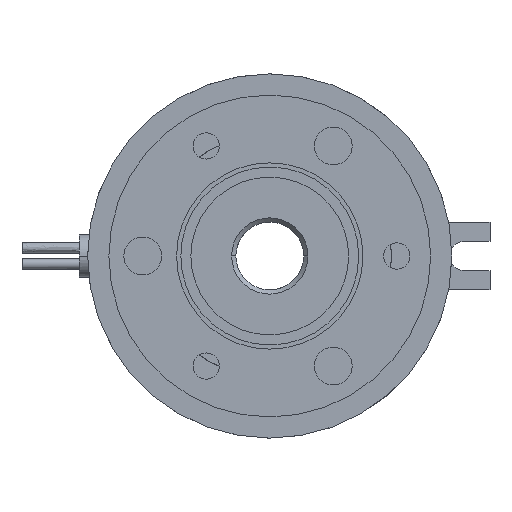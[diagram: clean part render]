
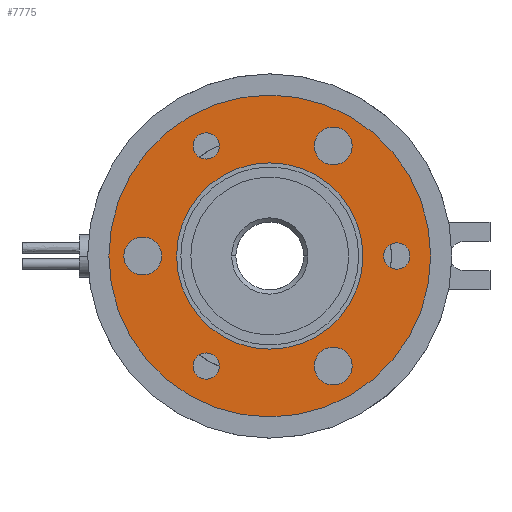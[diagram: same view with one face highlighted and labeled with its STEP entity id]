
A CAD part, left-side view. The second image highlights one B-rep face of the part: STEP entity #7775.
In plain terms, the highlighted planar face has unit normal (-1, 0, 0) as drawn and (0, 0, -1) by its records, which use the part's own axes.
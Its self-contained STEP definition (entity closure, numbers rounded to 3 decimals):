
#7177=CARTESIAN_POINT('',(-19.0,0.,0.0));
#7178=VERTEX_POINT('',#7177);
#7187=CARTESIAN_POINT('',(19.0,0.,0.0));
#7188=VERTEX_POINT('',#7187);
#7189=CARTESIAN_POINT('',(0.0,0.0,0.0));
#7190=DIRECTION('',(0.0,0.0,-1.0));
#7191=DIRECTION('',(-1.0,0.0,0.0));
#7192=AXIS2_PLACEMENT_3D('',#7189,#7190,#7191);
#7193=CIRCLE('',#7192,19.0);
#7194=EDGE_CURVE('',#7188,#7178,#7193,.T.);
#7221=CARTESIAN_POINT('',(-11.0,0.,0.0));
#7222=VERTEX_POINT('',#7221);
#7238=CARTESIAN_POINT('',(11.0,0.,0.0));
#7239=VERTEX_POINT('',#7238);
#7246=CARTESIAN_POINT('',(0.0,0.0,0.0));
#7247=DIRECTION('',(0.0,0.0,1.0));
#7248=DIRECTION('',(-1.0,0.0,0.0));
#7249=AXIS2_PLACEMENT_3D('',#7246,#7247,#7248);
#7250=CIRCLE('',#7249,11.0);
#7251=EDGE_CURVE('',#7222,#7239,#7250,.T.);
#7261=CARTESIAN_POINT('',(-1.55,15.0,0.0));
#7262=VERTEX_POINT('',#7261);
#7271=CARTESIAN_POINT('',(1.55,15.0,0.0));
#7272=VERTEX_POINT('',#7271);
#7273=CARTESIAN_POINT('',(0.0,15.0,0.0));
#7274=DIRECTION('',(0.0,0.0,1.0));
#7275=DIRECTION('',(-1.0,0.0,0.0));
#7276=AXIS2_PLACEMENT_3D('',#7273,#7274,#7275);
#7277=CIRCLE('',#7276,1.55);
#7278=EDGE_CURVE('',#7272,#7262,#7277,.T.);
#7303=CARTESIAN_POINT('',(12.215,8.842,0.0));
#7304=VERTEX_POINT('',#7303);
#7313=CARTESIAN_POINT('',(13.765,6.158,0.0));
#7314=VERTEX_POINT('',#7313);
#7315=CARTESIAN_POINT('',(12.99,7.5,0.0));
#7316=DIRECTION('',(0.0,0.0,1.0));
#7317=DIRECTION('',(-0.5,0.866,0.0));
#7318=AXIS2_PLACEMENT_3D('',#7315,#7316,#7317);
#7319=CIRCLE('',#7318,1.55);
#7320=EDGE_CURVE('',#7314,#7304,#7319,.T.);
#7345=CARTESIAN_POINT('',(-13.765,6.158,0.0));
#7346=VERTEX_POINT('',#7345);
#7355=CARTESIAN_POINT('',(-12.215,8.842,0.0));
#7356=VERTEX_POINT('',#7355);
#7357=CARTESIAN_POINT('',(-12.99,7.5,0.0));
#7358=DIRECTION('',(0.0,0.0,1.));
#7359=DIRECTION('',(-0.5,-0.866,0.0));
#7360=AXIS2_PLACEMENT_3D('',#7357,#7358,#7359);
#7361=CIRCLE('',#7360,1.55);
#7362=EDGE_CURVE('',#7356,#7346,#7361,.T.);
#7387=CARTESIAN_POINT('',(-12.215,-8.842,0.0));
#7388=VERTEX_POINT('',#7387);
#7397=CARTESIAN_POINT('',(-13.765,-6.158,0.0));
#7398=VERTEX_POINT('',#7397);
#7399=CARTESIAN_POINT('',(-12.99,-7.5,0.0));
#7400=DIRECTION('',(0.0,0.0,1.0));
#7401=DIRECTION('',(0.5,-0.866,0.0));
#7402=AXIS2_PLACEMENT_3D('',#7399,#7400,#7401);
#7403=CIRCLE('',#7402,1.55);
#7404=EDGE_CURVE('',#7398,#7388,#7403,.T.);
#7429=CARTESIAN_POINT('',(1.55,-15.0,0.0));
#7430=VERTEX_POINT('',#7429);
#7439=CARTESIAN_POINT('',(-1.55,-15.0,0.0));
#7440=VERTEX_POINT('',#7439);
#7441=CARTESIAN_POINT('',(0.,-15.0,0.0));
#7442=DIRECTION('',(0.0,0.0,1.0));
#7443=DIRECTION('',(1.0,0.0,0.0));
#7444=AXIS2_PLACEMENT_3D('',#7441,#7442,#7443);
#7445=CIRCLE('',#7444,1.55);
#7446=EDGE_CURVE('',#7440,#7430,#7445,.T.);
#7471=CARTESIAN_POINT('',(13.765,-6.158,0.0));
#7472=VERTEX_POINT('',#7471);
#7481=CARTESIAN_POINT('',(12.215,-8.842,0.0));
#7482=VERTEX_POINT('',#7481);
#7483=CARTESIAN_POINT('',(12.99,-7.5,0.0));
#7484=DIRECTION('',(0.0,0.0,1.));
#7485=DIRECTION('',(0.5,0.866,0.0));
#7486=AXIS2_PLACEMENT_3D('',#7483,#7484,#7485);
#7487=CIRCLE('',#7486,1.55);
#7488=EDGE_CURVE('',#7482,#7472,#7487,.T.);
#7522=CARTESIAN_POINT('',(12.99,-7.5,0.0));
#7523=DIRECTION('',(0.0,0.0,1.));
#7524=DIRECTION('',(0.5,0.866,0.0));
#7525=AXIS2_PLACEMENT_3D('',#7522,#7523,#7524);
#7526=CIRCLE('',#7525,1.55);
#7527=EDGE_CURVE('',#7472,#7482,#7526,.T.);
#7546=CARTESIAN_POINT('',(0.,-15.0,0.0));
#7547=DIRECTION('',(0.0,0.0,1.0));
#7548=DIRECTION('',(1.0,0.0,0.0));
#7549=AXIS2_PLACEMENT_3D('',#7546,#7547,#7548);
#7550=CIRCLE('',#7549,1.55);
#7551=EDGE_CURVE('',#7430,#7440,#7550,.T.);
#7570=CARTESIAN_POINT('',(-12.99,-7.5,0.0));
#7571=DIRECTION('',(0.0,0.0,1.0));
#7572=DIRECTION('',(0.5,-0.866,0.0));
#7573=AXIS2_PLACEMENT_3D('',#7570,#7571,#7572);
#7574=CIRCLE('',#7573,1.55);
#7575=EDGE_CURVE('',#7388,#7398,#7574,.T.);
#7594=CARTESIAN_POINT('',(-12.99,7.5,0.0));
#7595=DIRECTION('',(0.0,0.0,1.));
#7596=DIRECTION('',(-0.5,-0.866,0.0));
#7597=AXIS2_PLACEMENT_3D('',#7594,#7595,#7596);
#7598=CIRCLE('',#7597,1.55);
#7599=EDGE_CURVE('',#7346,#7356,#7598,.T.);
#7618=CARTESIAN_POINT('',(12.99,7.5,0.0));
#7619=DIRECTION('',(0.0,0.0,1.0));
#7620=DIRECTION('',(-0.5,0.866,0.0));
#7621=AXIS2_PLACEMENT_3D('',#7618,#7619,#7620);
#7622=CIRCLE('',#7621,1.55);
#7623=EDGE_CURVE('',#7304,#7314,#7622,.T.);
#7642=CARTESIAN_POINT('',(0.0,15.0,0.0));
#7643=DIRECTION('',(0.0,0.0,1.0));
#7644=DIRECTION('',(-1.0,0.0,0.0));
#7645=AXIS2_PLACEMENT_3D('',#7642,#7643,#7644);
#7646=CIRCLE('',#7645,1.55);
#7647=EDGE_CURVE('',#7262,#7272,#7646,.T.);
#7658=CARTESIAN_POINT('',(0.0,0.0,0.0));
#7659=DIRECTION('',(0.0,0.0,1.0));
#7660=DIRECTION('',(-1.0,0.0,0.0));
#7661=AXIS2_PLACEMENT_3D('',#7658,#7659,#7660);
#7662=CIRCLE('',#7661,11.0);
#7663=EDGE_CURVE('',#7239,#7222,#7662,.T.);
#7690=CARTESIAN_POINT('',(0.0,0.0,0.0));
#7691=DIRECTION('',(0.0,0.0,-1.0));
#7692=DIRECTION('',(-1.0,0.0,0.0));
#7693=AXIS2_PLACEMENT_3D('',#7690,#7691,#7692);
#7694=CIRCLE('',#7693,19.0);
#7695=EDGE_CURVE('',#7178,#7188,#7694,.T.);
#7738=CARTESIAN_POINT('',(0.0,0.0,0.0));
#7739=DIRECTION('',(0.0,0.0,-1.0));
#7740=DIRECTION('',(-1.0,0.0,0.0));
#7741=AXIS2_PLACEMENT_3D('',#7738,#7739,#7740);
#7742=PLANE('',#7741);
#7743=ORIENTED_EDGE('',*,*,#7194,.T.);
#7744=ORIENTED_EDGE('',*,*,#7695,.T.);
#7745=EDGE_LOOP('',(#7743,#7744));
#7746=FACE_OUTER_BOUND('',#7745,.T.);
#7747=ORIENTED_EDGE('',*,*,#7488,.T.);
#7748=ORIENTED_EDGE('',*,*,#7527,.T.);
#7749=EDGE_LOOP('',(#7747,#7748));
#7750=FACE_BOUND('',#7749,.T.);
#7751=ORIENTED_EDGE('',*,*,#7446,.T.);
#7752=ORIENTED_EDGE('',*,*,#7551,.T.);
#7753=EDGE_LOOP('',(#7751,#7752));
#7754=FACE_BOUND('',#7753,.T.);
#7755=ORIENTED_EDGE('',*,*,#7404,.T.);
#7756=ORIENTED_EDGE('',*,*,#7575,.T.);
#7757=EDGE_LOOP('',(#7755,#7756));
#7758=FACE_BOUND('',#7757,.T.);
#7759=ORIENTED_EDGE('',*,*,#7362,.T.);
#7760=ORIENTED_EDGE('',*,*,#7599,.T.);
#7761=EDGE_LOOP('',(#7759,#7760));
#7762=FACE_BOUND('',#7761,.T.);
#7763=ORIENTED_EDGE('',*,*,#7320,.T.);
#7764=ORIENTED_EDGE('',*,*,#7623,.T.);
#7765=EDGE_LOOP('',(#7763,#7764));
#7766=FACE_BOUND('',#7765,.T.);
#7767=ORIENTED_EDGE('',*,*,#7278,.T.);
#7768=ORIENTED_EDGE('',*,*,#7647,.T.);
#7769=EDGE_LOOP('',(#7767,#7768));
#7770=FACE_BOUND('',#7769,.T.);
#7771=ORIENTED_EDGE('',*,*,#7663,.T.);
#7772=ORIENTED_EDGE('',*,*,#7251,.T.);
#7773=EDGE_LOOP('',(#7771,#7772));
#7774=FACE_BOUND('',#7773,.T.);
#7775=ADVANCED_FACE('',(#7746,#7750,#7754,#7758,#7762,#7766,#7770,#7774),#7742,.T.);
